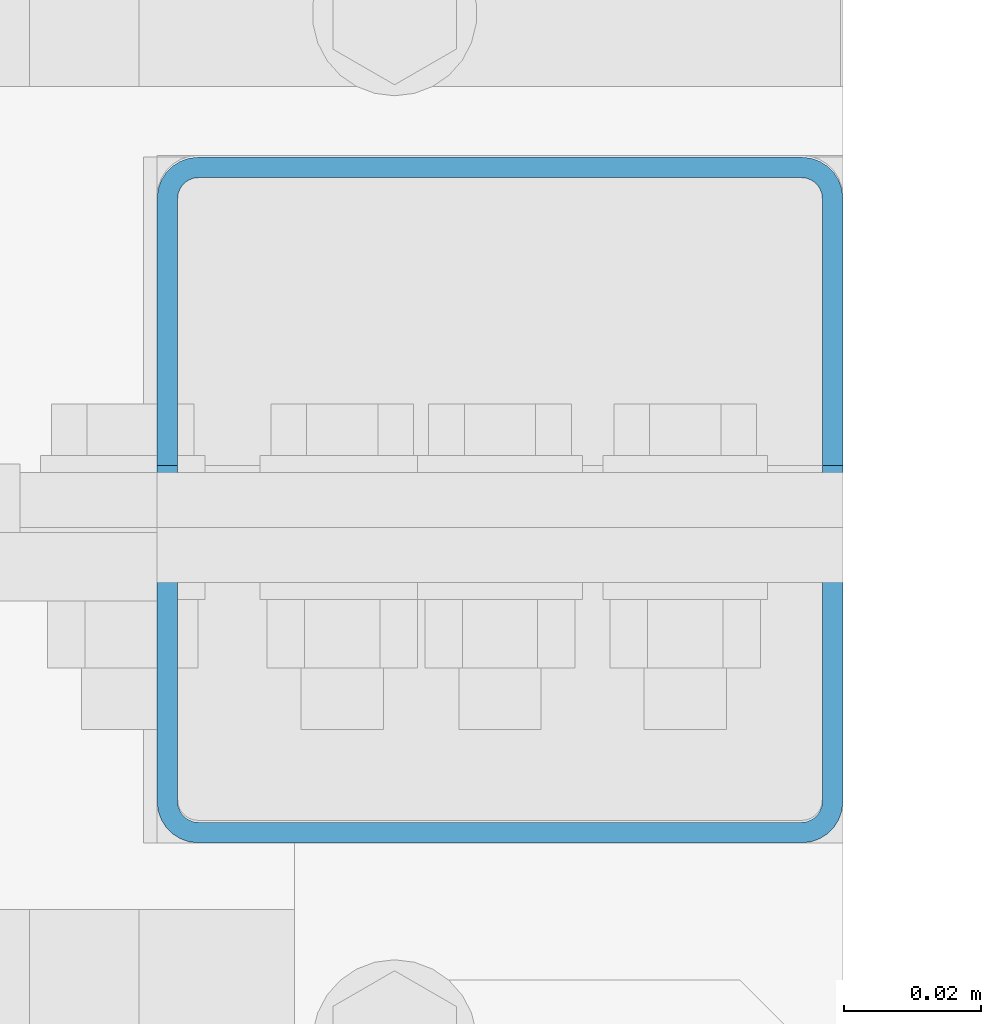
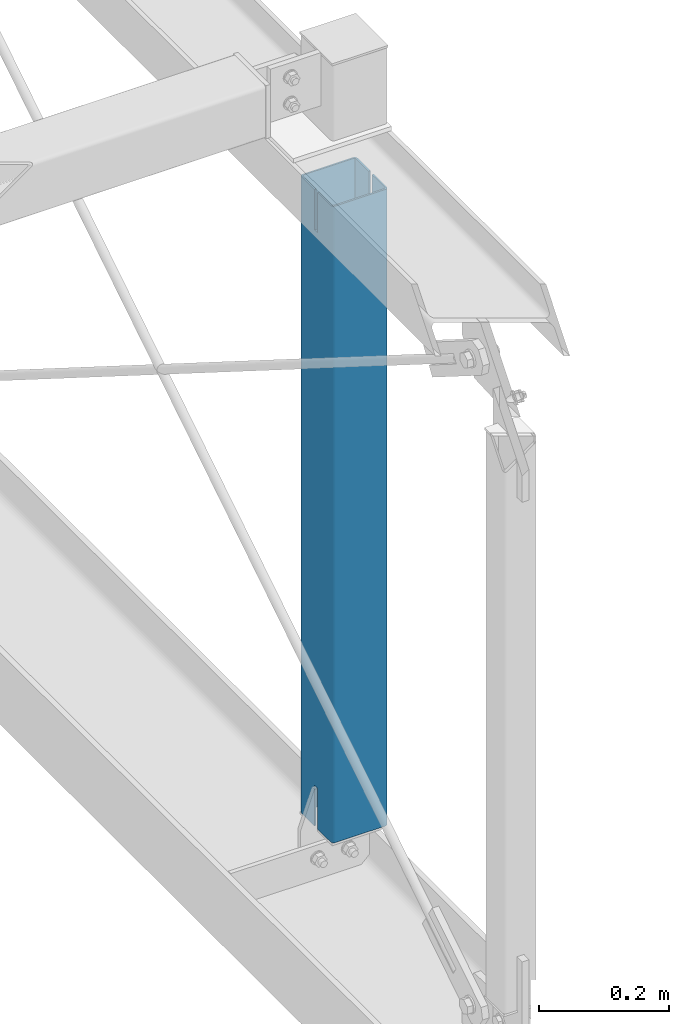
# One storey, part 45 of 271: 1 beam, 1 element without a shape of its own.
"""IFC2X3 building model written with IfcOpenShell, lengths in millimetres."""

import ifcopenshell
import ifcopenshell.guid

model = None  # the IFC model being written
_history = None  # IfcOwnerHistory: only IFC2X3 demands one
_inside = {}  # id of a spatial element -> (the spatial element, [elements in it])
_under = {}  # id of a project, library or spatial element -> (it, [spatial elements below it])
_declared = {}  # id of a project -> (the project, [libraries it declares])
_typed = {}  # id of a type object -> (the type object, [elements of that type])
_made_of = {}  # id of a material, layer set ... -> (it, [elements and type objects made of it])


def new_model(schema):
    """Start an empty IFC model of exactly this schema.

    Asked for "IFC4X3", IfcOpenShell would pick the latest addendum, in which some entities
    have other attributes; the version numbers below select the first issue.
    IFC2X3 requires an IfcOwnerHistory on every rooted entity: one is made here for all.
    """
    global model, _history
    if schema == "IFC4X3":
        model = ifcopenshell.file(schema_version=(4, 3, 0, 0))
    else:
        model = ifcopenshell.file(schema=schema)
    _inside.clear()
    _under.clear()
    _declared.clear()
    _typed.clear()
    _made_of.clear()
    _history = None
    if model.schema == "IFC2X3":
        org = make("IfcOrganization", Name="unknown")
        user = make(
            "IfcPersonAndOrganization",
            ThePerson=make("IfcPerson", FamilyName="unknown"),
            TheOrganization=org,
        )
        app = make(
            "IfcApplication",
            ApplicationDeveloper=org,
            Version="unknown",
            ApplicationFullName="unknown",
            ApplicationIdentifier="unknown",
        )
        _history = make(
            "IfcOwnerHistory",
            OwningUser=user,
            OwningApplication=app,
            ChangeAction="ADDED",
            CreationDate=0,
        )
    return model


def make(cls, **values):
    """One entity of the class cls with the attributes given. An attribute that is None is left unset."""
    return model.create_entity(
        cls, **{name: value for name, value in values.items() if value is not None}
    )


def rooted(cls, **values):
    """An entity with a GlobalId (a new one), such as an element, a storey or a relation."""
    return make(cls, GlobalId=ifcopenshell.guid.new(), OwnerHistory=_history, **values)


def si_unit(unit_type, name, prefix=None):
    """IfcSIUnit, for example si_unit("LENGTHUNIT", "METRE", prefix="MILLI")."""
    return make("IfcSIUnit", UnitType=unit_type, Prefix=prefix, Name=name)


def assignment(units):
    """IfcUnitAssignment: the units of a project."""
    return None if units is None else make("IfcUnitAssignment", Units=units)


def point(xyz):
    """IfcCartesianPoint."""
    return None if xyz is None else make("IfcCartesianPoint", Coordinates=xyz)


def direction(xyz):
    """IfcDirection."""
    return None if xyz is None else make("IfcDirection", DirectionRatios=xyz)


def frame(location, z_axis=None, x_axis=None):
    """IfcAxis2Placement3D, a coordinate frame: its origin and axes. An axis left out is left unset."""
    return make(
        "IfcAxis2Placement3D",
        Location=point(location),
        Axis=direction(z_axis),
        RefDirection=direction(x_axis),
    )


def frame_2d(location, x_axis=None):
    """IfcAxis2Placement2D, a coordinate frame in the plane: its origin and x axis."""
    return make(
        "IfcAxis2Placement2D", Location=point(location), RefDirection=direction(x_axis)
    )


def origin_with_axes():
    """The frame at (0, 0, 0) with the z axis (0, 0, 1) and the x axis (1, 0, 0) written out."""
    return frame((0.0, 0.0, 0.0), z_axis=(0.0, 0.0, 1.0), x_axis=(1.0, 0.0, 0.0))


def origin_2d_with_axis():
    """The frame at (0, 0) in the plane with the x axis (1, 0) written out."""
    return frame_2d((0.0, 0.0), x_axis=(1.0, 0.0))


def place(relative_to, where):
    """IfcLocalPlacement: puts the frame where relative to a parent placement (None: the world)."""
    return make(
        "IfcLocalPlacement", PlacementRelTo=relative_to, RelativePlacement=where
    )


def context(
    kind, dimensions, precision=None, world=None, true_north=None, identifier=None
):
    """IfcGeometricRepresentationContext, for example the 3D "Model" context."""
    return make(
        "IfcGeometricRepresentationContext",
        ContextIdentifier=identifier,
        ContextType=kind,
        CoordinateSpaceDimension=dimensions,
        Precision=precision,
        WorldCoordinateSystem=world,
        TrueNorth=true_north,
    )


def subcontext(parent, identifier, kind, view, scale=None):
    """IfcGeometricRepresentationSubContext, for example "Body" below "Model"."""
    return make(
        "IfcGeometricRepresentationSubContext",
        ContextIdentifier=identifier,
        ContextType=kind,
        ParentContext=parent,
        TargetScale=scale,
        TargetView=view,
    )


def project(units=None, contexts=None):
    """IfcProject with its units and contexts."""
    return rooted(
        "IfcProject",
        Name="project",
        RepresentationContexts=contexts,
        UnitsInContext=assignment(units),
    )


def spatial(cls, under=None, at=None, **own):
    """A site, building, storey or space (cls), placed at a placement, below another one or the project."""
    s = rooted(cls, ObjectPlacement=at, **own)
    if under is not None:
        _under.setdefault(under.id(), (under, []))[1].append(s)
    return s


def polyline(points):
    """IfcPolyline through the points."""
    return make("IfcPolyline", Points=[point(p) for p in points])


def profile(cls, at=None, kind="AREA", **sizes):
    """A parametric profile (cls). Its sizes go by their IFC names, for example OverallWidth=200.0."""
    return make(cls, ProfileType=kind, Position=at, **sizes)


def hollow_rectangle(**sizes):
    """IfcRectangleHollowProfileDef."""
    return profile("IfcRectangleHollowProfileDef", **sizes)


def outline(outer, holes=None, kind="AREA"):
    """IfcArbitraryClosedProfileDef: a profile drawn as a closed curve; with holes, ...WithVoids."""
    if holes is None:
        return make("IfcArbitraryClosedProfileDef", ProfileType=kind, OuterCurve=outer)
    return make(
        "IfcArbitraryProfileDefWithVoids",
        ProfileType=kind,
        OuterCurve=outer,
        InnerCurves=holes,
    )


def extrude(swept, where, along, depth):
    """IfcExtrudedAreaSolid: the profile swept, set in the frame where, extruded along a direction by depth."""
    return make(
        "IfcExtrudedAreaSolid",
        SweptArea=swept,
        Position=where,
        ExtrudedDirection=direction(along),
        Depth=depth,
    )


def boolean(op, a, b):
    """IfcBooleanResult of two solids."""
    return make("IfcBooleanResult", Operator=op, FirstOperand=a, SecondOperand=b)


def shape(context_of_items, identifier, shape_type, items):
    """IfcShapeRepresentation: the items that make up one representation, for example the "Body"."""
    return make(
        "IfcShapeRepresentation",
        ContextOfItems=context_of_items,
        RepresentationIdentifier=identifier,
        RepresentationType=shape_type,
        Items=items,
    )


def material(Name=None, Category=None):
    """IfcMaterial."""
    return make("IfcMaterial", Name=Name, Category=Category)


def made_of(thing, what):
    """Note that an element or type object is made of a material, layer set ...; save() writes the relation."""
    if what is not None:
        _made_of.setdefault(what.id(), (what, []))[1].append(thing)
    return thing


def type_object(cls, material=None, **own):
    """A type object (cls), such as IfcWallType, which elements share."""
    return made_of(rooted(cls, **own), material)


def element(
    cls,
    number,
    at=None,
    inside=None,
    cuts=None,
    type_object=None,
    material=None,
    context=None,
    identifier="Body",
    shape_type=None,
    held_by="IfcProductDefinitionShape",
    body=None,
    shapes=None,
    **own,
):
    """One element of the class cls, such as IfcWall. Its Tag is "e" and its number.

    at: its placement. inside: the storey or other place that contains it. cuts: it is an
    opening in that element (IfcRelVoidsElement). A single representation is given by context,
    identifier, shape_type and body (its items); several are given by shapes. held_by: the class
    of the entity that holds the representations. save() writes the other relations.
    """
    e = rooted(cls, Tag="e%d" % number, ObjectPlacement=at, **own)
    if body is not None:
        shapes = [shape(context, identifier, shape_type, body)]
    if shapes is not None:
        e.Representation = make(held_by, Representations=shapes)
    if inside is not None:
        _inside.setdefault(inside.id(), (inside, []))[1].append(e)
    if cuts is not None:
        rooted(
            "IfcRelVoidsElement", RelatingBuildingElement=cuts, RelatedOpeningElement=e
        )
    if type_object is not None:
        _typed.setdefault(type_object.id(), (type_object, []))[1].append(e)
    return made_of(e, material)


def aggregate(whole, parts):
    """IfcRelAggregates: a whole, such as a stair, and the parts it consists of."""
    return rooted("IfcRelAggregates", RelatingObject=whole, RelatedObjects=parts)


def save(model, path):
    """Write the relations noted so far, then the file.

    IfcRelAggregates (storeys below a building ...), IfcRelContainedInSpatialStructure (elements
    in a storey), IfcRelDefinesByType, IfcRelAssociatesMaterial and IfcRelDeclares: one each for
    every whole, place, type object, material and project.
    """
    for whole, parts in _under.values():
        aggregate(whole, parts)
    for where, things in _inside.values():
        rooted(
            "IfcRelContainedInSpatialStructure",
            RelatedElements=things,
            RelatingStructure=where,
        )
    for kind, things in _typed.values():
        rooted("IfcRelDefinesByType", RelatedObjects=things, RelatingType=kind)
    for what, things in _made_of.values():
        rooted("IfcRelAssociatesMaterial", RelatedObjects=things, RelatingMaterial=what)
    for by, libraries in _declared.values():
        rooted("IfcRelDeclares", RelatingContext=by, RelatedDefinitions=libraries)
    model.write(path)


model = new_model("IFC2X3")

# Units and contexts
model_context = context("Model", 3, precision=1e-05, world=origin_with_axes())
body_context = subcontext(model_context, "Body", "Model", "MODEL_VIEW")
ifc_project = project(units=[si_unit("LENGTHUNIT", "METRE", prefix="MILLI"), si_unit("AREAUNIT", "SQUARE_METRE"), si_unit("VOLUMEUNIT", "CUBIC_METRE"), si_unit("MASSUNIT", "GRAM", prefix="KILO"), si_unit("TIMEUNIT", "SECOND"), si_unit("PLANEANGLEUNIT", "RADIAN"), si_unit("SOLIDANGLEUNIT", "STERADIAN"), si_unit("THERMODYNAMICTEMPERATUREUNIT", "DEGREE_CELSIUS"), si_unit("LUMINOUSINTENSITYUNIT", "LUMEN")], contexts=[model_context])

# Site, building, storey
site_placement = place(None, origin_with_axes())
site = spatial("IfcSite", under=ifc_project, at=site_placement, Name="Undefined", CompositionType="ELEMENT")
building_placement = place(site_placement, origin_with_axes())
building = spatial("IfcBuilding", under=site, at=building_placement, Name="Undefined", CompositionType="ELEMENT")
storey_placement = place(building_placement, origin_with_axes())
storey = spatial("IfcBuildingStorey", under=building, at=storey_placement, Name="Undefined", CompositionType="ELEMENT", Elevation=0.0)

# Assembly, beam
assembly_placement = place(storey_placement, origin_with_axes())
assembly = element("IfcElementAssembly", 1, at=assembly_placement, inside=storey, AssemblyPlace="NOTDEFINED", PredefinedType="RIGID_FRAME")
ifc_material = material(Name="STEEL/S355JR")
beam_type = type_object("IfcBeamType", Name="SHS100*3", PredefinedType="NOTDEFINED")
beam_placement = place(assembly_placement, frame((12658.3756870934, 2799.05211980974, 19934.8499999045), z_axis=(0.0, 1.0, 0.0), x_axis=(0.0, 0.0, -1.0)))
beam = element("IfcBeam", 2, at=beam_placement, type_object=beam_type, material=ifc_material, Name="RYGIEL", ObjectType="SHS100*3", context=body_context, shape_type="CSG", body=[
    boolean("DIFFERENCE", boolean("DIFFERENCE", extrude(hollow_rectangle(XDim=100.0, YDim=100.0, WallThickness=3.0, InnerFilletRadius=3.0, OuterFilletRadius=6.0, at=origin_2d_with_axis()), frame((1199.0, 0.0, 0.0), z_axis=(-1.0, 0.0, 1.38777878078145e-17), x_axis=(0.0, -1.0, 0.0)), (0.0, 0.0, 1.0), 1199.0), extrude(outline(polyline([(0.0, 25.0), (70.0, -8.66862137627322e-13), (140.0, -1.81543668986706e-12), (140.0, 105.0), (80.0, 105.0), (80.0, 130.0), (-3.5527136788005e-14, 130.0), (0.0, 25.0)])), frame((76.0000000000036, 79.9999999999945, -4.99986444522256), z_axis=(0.0, 0.0, 1.0), x_axis=(-1.0, 0.0, 1.38777878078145e-17)), (0.0, 0.0, 1.0), 10.0)), extrude(outline(polyline([(0.0, 40.0), (80.0, 0.0), (151.0, -1.91135995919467e-12), (151.0, 120.0), (91.0, 120.0), (91.0, 150.0), (1.4210854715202e-14, 150.0), (0.0, 40.0)])), frame((1122.0, 99.9999999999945, 5.00000000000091), z_axis=(0.0, 0.0, -1.0), x_axis=(1.0, 0.0, 0.0)), (0.0, 0.0, 1.0), 10.0)),
])
aggregate(assembly, [beam])

save(model, "model.ifc")
